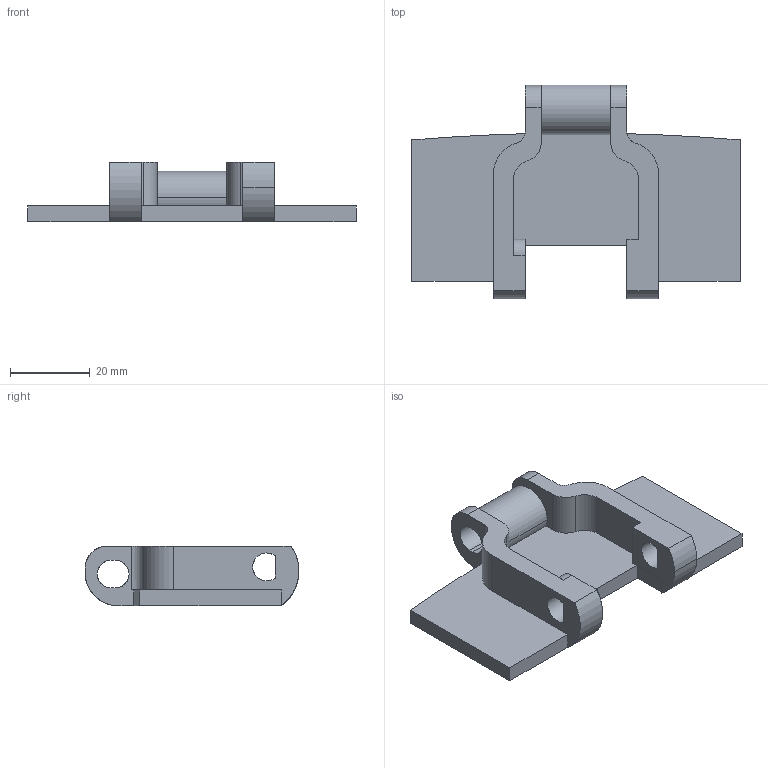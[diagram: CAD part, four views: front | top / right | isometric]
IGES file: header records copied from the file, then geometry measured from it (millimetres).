
Start section: SolidWorks IGES file using analytic representation for surfaces
Global section: file name: C:\Documents and Settings\URETIM3\Desktop\yeni katalog tolgay\880M týrnaksýz manyetik dönüþlü bant\880 TKT 082.IGS; native system: SolidWorks 2006 by SolidWorks Corporation; preprocessor: SolidWorks 2006 by SolidWorks Corporation; author: URETIM3; date: 061030.094705; units: millimetre
Bounding box: 82.6 x 53.82 x 15 mm (x, y, z)
Surface area: 10850.1 mm2 (no closed solid volume)
Topology: 0 solids, 0 shells, 59 faces, 734 edges, 734 vertices
Faces by surface type: bspline 35, revolution 24
